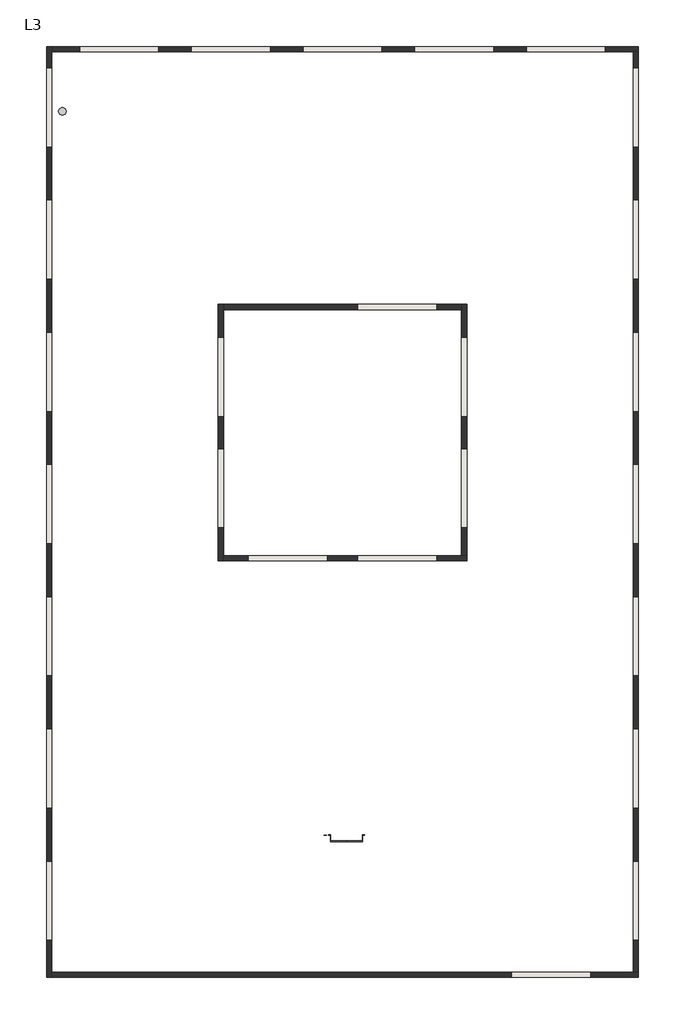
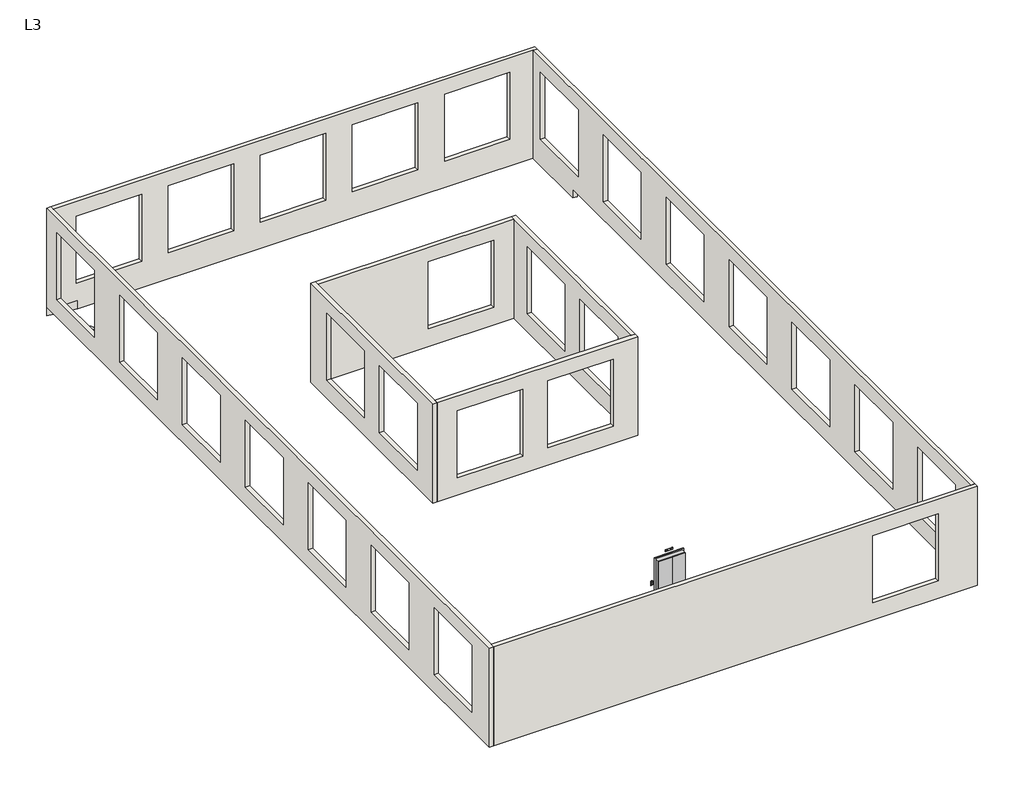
# One storey: 8 walls, 1 column, 1 proxy.
"""IFC4 building model written with IfcOpenShell, lengths in millimetres."""

from ifc_helpers import new_model, si_unit, point, frame, frame_2d, origin, place, context, project, spatial, polyline, circle_curve, trimmed, segment, composite_curve, outline, extrude, faceted_brep, transform, mapped, element, save
from components import proxy_fe7a46d2

model = new_model("IFC4")

# Units and contexts
model_context = context("Model", 3, world=origin())
ifc_project = project(units=[si_unit("LENGTHUNIT", "METRE", prefix="MILLI")], contexts=[model_context])

# Site, building, storey
site = spatial("IfcSite", under=ifc_project)
building = spatial("IfcBuilding", under=site)
storey = spatial("IfcBuildingStorey", under=building, Name="L3", Elevation=4216.4)

# Proxy
placement = place(None, origin())
proxy_shape = proxy_fe7a46d2(model_context)
element("IfcBuildingElementProxy", 1, Name="Elevator Door-Center : 48\" x 84\"", ObjectType="Elevator Door-Center : 48\" x 84\"", at=placement, inside=storey, context=model_context, shape_type="MappedRepresentation", body=[
    mapped(proxy_shape, transform((14531.2704229, 5816.6, 4216.4), x_axis=(-1.0, 0.0, 0.0), y_axis=(0.0, -1.0, 0.0), z_axis=(0.0, 0.0, 1.0))),
])

# Column
element("IfcColumn", 2, ObjectType="Concrete-Round-Column : 12\"", at=placement, inside=storey, context=model_context, shape_type="SweptSolid", body=[
    extrude(outline(composite_curve([segment(trimmed(circle_curve(frame_2d((3708.4, 33731.1998815)), 152.4), [point((3556.0, 33731.1998815))], [point((3860.8, 33731.1998815))], False, "CARTESIAN"), True, "CONTINUOUS"), segment(trimmed(circle_curve(frame_2d((3708.4, 33731.1998815)), 152.4), [point((3860.8, 33731.1998815))], [point((3556.0, 33731.1998815))], False, "CARTESIAN"), True, "CONTINUOUS")], self_intersect=False)), frame((0.0, 0.0, 4216.4), z_axis=(0.0, 0.0, 1.0), x_axis=(1.0, 0.0, 0.0)), (0.0, 0.0, 1.0), 254.0),
])

# Walls
element("IfcWall", 3, ObjectType="Project Wall", at=placement, inside=storey, context=model_context, shape_type="Brep", body=[
    faceted_brep([(9702.8000088, 26314.3998757, 4216.4), (9702.8000088, 16459.1998844, 4216.4), (9702.8000088, 16459.1998844, 9093.2), (9702.8000088, 26314.3998757, 9093.2), (9702.8000088, 17729.1998844, 8382.0), (9702.8000088, 17729.1998844, 5080.0), (9702.8000088, 20777.1998844, 5080.0), (9702.8000088, 20777.1998844, 8382.0), (9702.8000088, 21996.3998757, 8382.0), (9702.8000088, 21996.3998757, 5080.0), (9702.8000088, 25044.3998757, 5080.0), (9702.8000088, 25044.3998757, 8382.0), (9906.0000088, 26314.3998757, 4216.4), (9906.0000088, 26314.3998757, 9093.2), (9906.0000088, 26111.1998757, 9093.2), (9906.0000088, 16662.3998844, 9093.2), (9906.0000088, 16459.1998844, 9093.2), (9906.0000088, 16459.1998844, 4216.4), (9906.0000088, 16662.3998844, 4216.4), (9906.0000088, 26111.1998757, 4216.4), (9906.0000088, 17729.1998844, 8382.0), (9906.0000088, 20777.1998844, 8382.0), (9906.0000088, 20777.1998844, 5080.0), (9906.0000088, 17729.1998844, 5080.0), (9906.0000088, 21996.3998757, 8382.0), (9906.0000088, 25044.3998757, 8382.0), (9906.0000088, 25044.3998757, 5080.0), (9906.0000088, 21996.3998757, 5080.0)], [[[0, 1, 2, 3], [4, 5, 6, 7], [8, 9, 10, 11]], [[12, 13, 14, 15, 16, 17, 18, 19], [20, 21, 22, 23], [24, 25, 26, 27]], [[1, 0, 12, 19, 18, 17]], [[3, 2, 16, 15, 14, 13]], [[2, 1, 17, 16]], [[0, 3, 13, 12]], [[5, 4, 20, 23]], [[6, 5, 23, 22]], [[7, 6, 22, 21]], [[4, 7, 21, 20]], [[9, 8, 24, 27]], [[10, 9, 27, 26]], [[11, 10, 26, 25]], [[8, 11, 25, 24]]]),
])
element("IfcWall", 4, ObjectType="Project Wall", at=placement, inside=storey, context=model_context, shape_type="Brep", body=[
    faceted_brep([(9906.0000088, 16459.1998844, 4216.4), (19253.2, 16459.1998844, 4216.4), (19253.2, 16459.1998844, 9093.2), (9906.0000088, 16459.1998844, 9093.2), (18110.2, 16459.1998844, 8382.0), (18110.2, 16459.1998844, 5080.0), (15062.2, 16459.1998844, 5080.0), (15062.2, 16459.1998844, 8382.0), (13893.8000088, 16459.1998844, 8382.0), (13893.8000088, 16459.1998844, 5080.0), (10845.8000088, 16459.1998844, 5080.0), (10845.8000088, 16459.1998844, 8382.0), (9906.0000088, 16662.3998844, 4216.4), (9906.0000088, 16662.3998844, 9093.2), (19050.0, 16662.3998844, 9093.2), (19253.2, 16662.3998844, 9093.2), (19253.2, 16662.3998844, 4216.4), (19050.0, 16662.3998844, 4216.4), (18110.2, 16662.3998844, 8382.0), (15062.2, 16662.3998844, 8382.0), (15062.2, 16662.3998844, 5080.0), (18110.2, 16662.3998844, 5080.0), (13893.8000088, 16662.3998844, 8382.0), (10845.8000088, 16662.3998844, 8382.0), (10845.8000088, 16662.3998844, 5080.0), (13893.8000088, 16662.3998844, 5080.0)], [[[0, 1, 2, 3], [4, 5, 6, 7], [8, 9, 10, 11]], [[12, 13, 14, 15, 16, 17], [18, 19, 20, 21], [22, 23, 24, 25]], [[1, 0, 12, 17, 16]], [[3, 2, 15, 14, 13]], [[0, 3, 13, 12]], [[2, 1, 16, 15]], [[5, 4, 18, 21]], [[6, 5, 21, 20]], [[7, 6, 20, 19]], [[4, 7, 19, 18]], [[9, 8, 22, 25]], [[10, 9, 25, 24]], [[11, 10, 24, 23]], [[8, 11, 23, 22]]]),
])
element("IfcWall", 5, ObjectType="Project Wall", at=placement, inside=storey, context=model_context, shape_type="Brep", body=[
    faceted_brep([(19253.2, 16662.3998844, 4216.4), (19253.2, 26314.3998757, 4216.4), (19253.2, 26314.3998757, 9093.2), (19253.2, 16662.3998844, 9093.2), (19253.2, 25044.3998757, 8382.0), (19253.2, 25044.3998757, 5080.0), (19253.2, 21996.3998757, 5080.0), (19253.2, 21996.3998757, 8382.0), (19253.2, 20777.1998844, 8382.0), (19253.2, 20777.1998844, 5080.0), (19253.2, 17729.1998844, 5080.0), (19253.2, 17729.1998844, 8382.0), (19050.0, 16662.3998844, 4216.4), (19050.0, 16662.3998844, 9093.2), (19050.0, 26111.1998757, 9093.2), (19050.0, 26314.3998757, 9093.2), (19050.0, 26314.3998757, 4216.4), (19050.0, 26111.1998757, 4216.4), (19050.0, 25044.3998757, 8382.0), (19050.0, 21996.3998757, 8382.0), (19050.0, 21996.3998757, 5080.0), (19050.0, 25044.3998757, 5080.0), (19050.0, 20777.1998844, 8382.0), (19050.0, 17729.1998844, 8382.0), (19050.0, 17729.1998844, 5080.0), (19050.0, 20777.1998844, 5080.0)], [[[0, 1, 2, 3], [4, 5, 6, 7], [8, 9, 10, 11]], [[12, 13, 14, 15, 16, 17], [18, 19, 20, 21], [22, 23, 24, 25]], [[1, 0, 12, 17, 16]], [[3, 2, 15, 14, 13]], [[0, 3, 13, 12]], [[2, 1, 16, 15]], [[5, 4, 18, 21]], [[6, 5, 21, 20]], [[7, 6, 20, 19]], [[4, 7, 19, 18]], [[9, 8, 22, 25]], [[10, 9, 25, 24]], [[11, 10, 24, 23]], [[8, 11, 23, 22]]]),
])
element("IfcWall", 6, ObjectType="Project Wall", at=placement, inside=storey, context=model_context, shape_type="SweptSolid", body=[
    extrude(outline(polyline([(4216.4, 19050.0), (9093.2, 19050.0), (9093.2, 9906.0000088), (4216.4, 9906.0000088), (4216.4, 19050.0)]), holes=[polyline([(8382.0, 15062.2), (8382.0, 18110.2), (5080.0, 18110.2), (5080.0, 15062.2), (8382.0, 15062.2)])]), frame((0.0, 26111.1998757, 0.0), z_axis=(0.0, 1.0, 0.0), x_axis=(0.0, 0.0, 1.0)), (0.0, 0.0, 1.0), 203.2),
])
element("IfcWall", 7, ObjectType="Project Wall", at=placement, inside=storey, context=model_context, shape_type="Brep", body=[
    faceted_brep([(3098.8, 36220.4, 4216.4), (3098.8, 457.2, 4216.4), (3098.8, 457.2, 9093.2), (3098.8, 36220.4, 9093.2), (3098.8, 32359.6, 8382.0), (3098.8, 32359.6, 5080.0), (3098.8, 35407.6, 5080.0), (3098.8, 35407.6, 8382.0), (3098.8, 22199.6, 8382.0), (3098.8, 22199.6, 5080.0), (3098.8, 25247.6, 5080.0), (3098.8, 25247.6, 8382.0), (3098.8, 17119.6, 8382.0), (3098.8, 17119.6, 5080.0), (3098.8, 20167.6, 5080.0), (3098.8, 20167.6, 8382.0), (3098.8, 12039.6, 8382.0), (3098.8, 12039.6, 5080.0), (3098.8, 15087.6, 5080.0), (3098.8, 15087.6, 8382.0), (3098.8, 6959.6, 8382.0), (3098.8, 6959.6, 5080.0), (3098.8, 10007.6, 5080.0), (3098.8, 10007.6, 8382.0), (3098.8, 1879.6, 8382.0), (3098.8, 1879.6, 5080.0), (3098.8, 4927.6, 5080.0), (3098.8, 4927.6, 8382.0), (3098.8, 30327.6, 8382.0), (3098.8, 27279.6, 8382.0), (3098.8, 27279.6, 5080.0), (3098.8, 30327.6, 5080.0), (3302.0, 36220.4, 4216.4), (3302.0, 36220.4, 9093.2), (3302.0, 36017.2, 9093.2), (3302.0, 660.4, 9093.2), (3302.0, 457.2, 9093.2), (3302.0, 457.2, 4216.4), (3302.0, 660.4, 4216.4), (3302.0, 36017.2, 4216.4), (3302.0, 36189.5571428, 4216.4), (3302.0, 32359.6, 8382.0), (3302.0, 35407.6, 8382.0), (3302.0, 35407.6, 5080.0), (3302.0, 32359.6, 5080.0), (3302.0, 22199.6, 8382.0), (3302.0, 25247.6, 8382.0), (3302.0, 25247.6, 5080.0), (3302.0, 22199.6, 5080.0), (3302.0, 17119.6, 8382.0), (3302.0, 20167.6, 8382.0), (3302.0, 20167.6, 5080.0), (3302.0, 17119.6, 5080.0), (3302.0, 12039.6, 8382.0), (3302.0, 15087.6, 8382.0), (3302.0, 15087.6, 5080.0), (3302.0, 12039.6, 5080.0), (3302.0, 6959.6, 8382.0), (3302.0, 10007.6, 8382.0), (3302.0, 10007.6, 5080.0), (3302.0, 6959.6, 5080.0), (3302.0, 1879.6, 8382.0), (3302.0, 4927.6, 8382.0), (3302.0, 4927.6, 5080.0), (3302.0, 1879.6, 5080.0), (3302.0, 30327.6, 8382.0), (3302.0, 30327.6, 5080.0), (3302.0, 27279.6, 5080.0), (3302.0, 27279.6, 8382.0)], [[[0, 1, 2, 3], [4, 5, 6, 7], [8, 9, 10, 11], [12, 13, 14, 15], [16, 17, 18, 19], [20, 21, 22, 23], [24, 25, 26, 27], [28, 29, 30, 31]], [[32, 33, 34, 35, 36, 37, 38, 39, 40], [41, 42, 43, 44], [45, 46, 47, 48], [49, 50, 51, 52], [53, 54, 55, 56], [57, 58, 59, 60], [61, 62, 63, 64], [65, 66, 67, 68]], [[1, 0, 32, 40, 39, 38, 37]], [[3, 2, 36, 35, 34, 33]], [[2, 1, 37, 36]], [[5, 4, 41, 44]], [[6, 5, 44, 43]], [[7, 6, 43, 42]], [[4, 7, 42, 41]], [[9, 8, 45, 48]], [[10, 9, 48, 47]], [[11, 10, 47, 46]], [[8, 11, 46, 45]], [[13, 12, 49, 52]], [[14, 13, 52, 51]], [[15, 14, 51, 50]], [[12, 15, 50, 49]], [[17, 16, 53, 56]], [[18, 17, 56, 55]], [[19, 18, 55, 54]], [[16, 19, 54, 53]], [[21, 20, 57, 60]], [[22, 21, 60, 59]], [[23, 22, 59, 58]], [[20, 23, 58, 57]], [[25, 24, 61, 64]], [[26, 25, 64, 63]], [[27, 26, 63, 62]], [[24, 27, 62, 61]], [[66, 65, 28, 31]], [[67, 66, 31, 30]], [[68, 67, 30, 29]], [[65, 68, 29, 28]], [[0, 3, 33, 32]]]),
])
element("IfcWall", 8, ObjectType="Project Wall", at=placement, inside=storey, context=model_context, shape_type="Brep", body=[
    faceted_brep([(3302.0, 457.2, 4216.4), (25857.2, 457.2, 4216.4), (25857.2, 457.2, 9093.2), (3302.0, 457.2, 9093.2), (24028.4, 457.2, 8382.0), (24028.4, 457.2, 5080.0), (20980.4, 457.2, 5080.0), (20980.4, 457.2, 8382.0), (3302.0, 660.4, 4216.4), (3302.0, 660.4, 9093.2), (25654.0, 660.4, 9093.2), (25857.2, 660.4, 9093.2), (25857.2, 660.4, 4216.4), (25654.0, 660.4, 4216.4), (24028.4, 660.4, 8382.0), (20980.4, 660.4, 8382.0), (20980.4, 660.4, 5080.0), (24028.4, 660.4, 5080.0)], [[[0, 1, 2, 3], [4, 5, 6, 7]], [[8, 9, 10, 11, 12, 13], [14, 15, 16, 17]], [[1, 0, 8, 13, 12]], [[3, 2, 11, 10, 9]], [[0, 3, 9, 8]], [[2, 1, 12, 11]], [[5, 4, 14, 17]], [[6, 5, 17, 16]], [[7, 6, 16, 15]], [[4, 7, 15, 14]]]),
])
element("IfcWall", 9, ObjectType="Project Wall", at=placement, inside=storey, context=model_context, shape_type="Brep", body=[
    faceted_brep([(25857.2, 36220.3999999, 3784.6), (3098.7999999, 36220.4, 3784.6), (3098.7999999, 36220.4, 4216.4), (3302.0, 36220.4, 4216.4), (3302.0, 36220.4, 9093.2), (25857.2, 36220.3999999, 9093.2), (21539.2, 36220.3999999, 8382.0), (21539.2, 36220.3999999, 5080.0), (24587.2, 36220.3999999, 5080.0), (24587.2, 36220.3999999, 8382.0), (17246.6, 36220.3999999, 8382.0), (17246.6, 36220.3999999, 5080.0), (20294.6, 36220.3999999, 5080.0), (20294.6, 36220.3999999, 8382.0), (16002.0, 36220.3999999, 8382.0), (12954.0, 36220.4, 8382.0), (12954.0, 36220.4, 5080.0), (16002.0, 36220.3999999, 5080.0), (11709.4, 36220.4, 8382.0), (8661.4, 36220.4, 8382.0), (8661.4, 36220.4, 5080.0), (11709.4, 36220.4, 5080.0), (7416.8, 36220.4, 8382.0), (4368.8, 36220.4, 8382.0), (4368.8, 36220.4, 5080.0), (7416.8, 36220.4, 5080.0), (25857.2, 36017.1999999, 3784.6), (25857.2, 36017.1999999, 9093.2), (25654.0, 36017.1999999, 9093.2), (3302.0, 36017.2, 9093.2), (3302.0, 36017.2, 4216.4), (4437.5294117, 36017.2, 4216.4), (4437.5294117, 36017.2, 3784.6), (25654.0, 36017.1999999, 3784.6), (21539.2, 36017.1999999, 8382.0), (24587.2, 36017.1999999, 8382.0), (24587.2, 36017.1999999, 5080.0), (21539.2, 36017.1999999, 5080.0), (17246.6, 36017.1999999, 8382.0), (20294.6, 36017.1999999, 8382.0), (20294.6, 36017.1999999, 5080.0), (17246.6, 36017.1999999, 5080.0), (16002.0, 36017.1999999, 8382.0), (16002.0, 36017.1999999, 5080.0), (12954.0, 36017.2, 5080.0), (12954.0, 36017.2, 8382.0), (11709.4, 36017.2, 8382.0), (11709.4, 36017.2, 5080.0), (8661.4, 36017.2, 5080.0), (8661.4, 36017.2, 8382.0), (7416.8, 36017.2, 8382.0), (7416.8, 36017.2, 5080.0), (4368.8, 36017.2, 5080.0), (4368.8, 36017.2, 8382.0), (4328.1189292, 36033.8069482, 3784.6), (3302.0, 36189.5571428, 4216.4)], [[[0, 1, 2, 3, 4, 5], [6, 7, 8, 9], [10, 11, 12, 13], [14, 15, 16, 17], [18, 19, 20, 21], [22, 23, 24, 25]], [[26, 27, 28, 29, 30, 31, 32, 33], [34, 35, 36, 37], [38, 39, 40, 41], [42, 43, 44, 45], [46, 47, 48, 49], [50, 51, 52, 53]], [[0, 5, 27, 26]], [[7, 6, 34, 37]], [[8, 7, 37, 36]], [[9, 8, 36, 35]], [[6, 9, 35, 34]], [[11, 10, 38, 41]], [[12, 11, 41, 40]], [[13, 12, 40, 39]], [[10, 13, 39, 38]], [[43, 42, 14, 17]], [[44, 43, 17, 16]], [[45, 44, 16, 15]], [[42, 45, 15, 14]], [[47, 46, 18, 21]], [[48, 47, 21, 20]], [[49, 48, 20, 19]], [[46, 49, 19, 18]], [[51, 50, 22, 25]], [[52, 51, 25, 24]], [[53, 52, 24, 23]], [[50, 53, 23, 22]], [[1, 0, 26, 33, 32, 54]], [[5, 4, 29, 28, 27]], [[30, 55, 31]], [[2, 1, 54, 32, 31, 55]], [[4, 3, 55, 30, 29]], [[55, 3, 2]]]),
])
element("IfcWall", 10, ObjectType="Project Wall", at=placement, inside=storey, context=model_context, shape_type="Brep", body=[
    faceted_brep([(25654.0, 36017.1999999, 3784.6), (25654.0, 32796.8428571, 3784.6), (25654.0, 32796.8428571, 4216.4), (25654.0, 660.4, 4216.4), (25654.0, 660.4, 9093.2), (25654.0, 36017.1999999, 9093.2), (25654.0, 1879.6, 8382.0), (25654.0, 1879.6, 5080.0), (25654.0, 4927.6, 5080.0), (25654.0, 4927.6, 8382.0), (25654.0, 6959.6, 8382.0), (25654.0, 6959.6, 5080.0), (25654.0, 10007.6, 5080.0), (25654.0, 10007.6, 8382.0), (25654.0, 12039.6, 8382.0), (25654.0, 12039.6, 5080.0), (25654.0, 15087.6, 5080.0), (25654.0, 15087.6, 8382.0), (25654.0, 17119.6, 8382.0), (25654.0, 17119.6, 5080.0), (25654.0, 20167.6, 5080.0), (25654.0, 20167.6, 8382.0), (25654.0, 22199.6, 8382.0), (25654.0, 22199.6, 5080.0), (25654.0, 25247.6, 5080.0), (25654.0, 25247.6, 8382.0), (25654.0, 32359.5999999, 8382.0), (25654.0, 32359.5999999, 5080.0), (25654.0, 35407.5999999, 5080.0), (25654.0, 35407.5999999, 8382.0), (25654.0, 30327.6, 8382.0), (25654.0, 27279.6, 8382.0), (25654.0, 27279.6, 5080.0), (25654.0, 30327.6, 5080.0), (25857.2, 36017.1999999, 3784.6), (25857.2, 36017.1999999, 9093.2), (25857.2, 660.4, 9093.2), (25857.2, 660.4, 4216.4), (25857.2, 32765.9999999, 4216.4), (25857.2, 32765.9999999, 3784.6), (25857.2, 1879.6, 8382.0), (25857.2, 4927.6, 8382.0), (25857.2, 4927.6, 5080.0), (25857.2, 1879.6, 5080.0), (25857.2, 6959.6, 8382.0), (25857.2, 10007.6, 8382.0), (25857.2, 10007.6, 5080.0), (25857.2, 6959.6, 5080.0), (25857.2, 12039.6, 8382.0), (25857.2, 15087.6, 8382.0), (25857.2, 15087.6, 5080.0), (25857.2, 12039.6, 5080.0), (25857.2, 17119.6, 8382.0), (25857.2, 20167.6, 8382.0), (25857.2, 20167.6, 5080.0), (25857.2, 17119.6, 5080.0), (25857.2, 22199.6, 8382.0), (25857.2, 25247.6, 8382.0), (25857.2, 25247.6, 5080.0), (25857.2, 22199.6, 5080.0), (25857.2, 32359.5999999, 8382.0), (25857.2, 35407.5999999, 8382.0), (25857.2, 35407.5999999, 5080.0), (25857.2, 32359.5999999, 5080.0), (25857.2, 30327.6, 8382.0), (25857.2, 30327.6, 5080.0), (25857.2, 27279.6, 5080.0), (25857.2, 27279.6, 8382.0)], [[[0, 1, 2, 3, 4, 5], [6, 7, 8, 9], [10, 11, 12, 13], [14, 15, 16, 17], [18, 19, 20, 21], [22, 23, 24, 25], [26, 27, 28, 29], [30, 31, 32, 33]], [[34, 35, 36, 37, 38, 39], [40, 41, 42, 43], [44, 45, 46, 47], [48, 49, 50, 51], [52, 53, 54, 55], [56, 57, 58, 59], [60, 61, 62, 63], [64, 65, 66, 67]], [[4, 3, 37, 36]], [[0, 5, 35, 34]], [[7, 6, 40, 43]], [[8, 7, 43, 42]], [[9, 8, 42, 41]], [[6, 9, 41, 40]], [[11, 10, 44, 47]], [[12, 11, 47, 46]], [[13, 12, 46, 45]], [[10, 13, 45, 44]], [[15, 14, 48, 51]], [[16, 15, 51, 50]], [[17, 16, 50, 49]], [[14, 17, 49, 48]], [[19, 18, 52, 55]], [[20, 19, 55, 54]], [[21, 20, 54, 53]], [[18, 21, 53, 52]], [[23, 22, 56, 59]], [[24, 23, 59, 58]], [[25, 24, 58, 57]], [[22, 25, 57, 56]], [[27, 26, 60, 63]], [[28, 27, 63, 62]], [[29, 28, 62, 61]], [[26, 29, 61, 60]], [[65, 64, 30, 33]], [[66, 65, 33, 32]], [[67, 66, 32, 31]], [[64, 67, 31, 30]], [[3, 2, 38, 37]], [[5, 4, 36, 35]], [[1, 0, 34, 39]], [[2, 1, 39, 38]]]),
])

save(model, "model.ifc")
